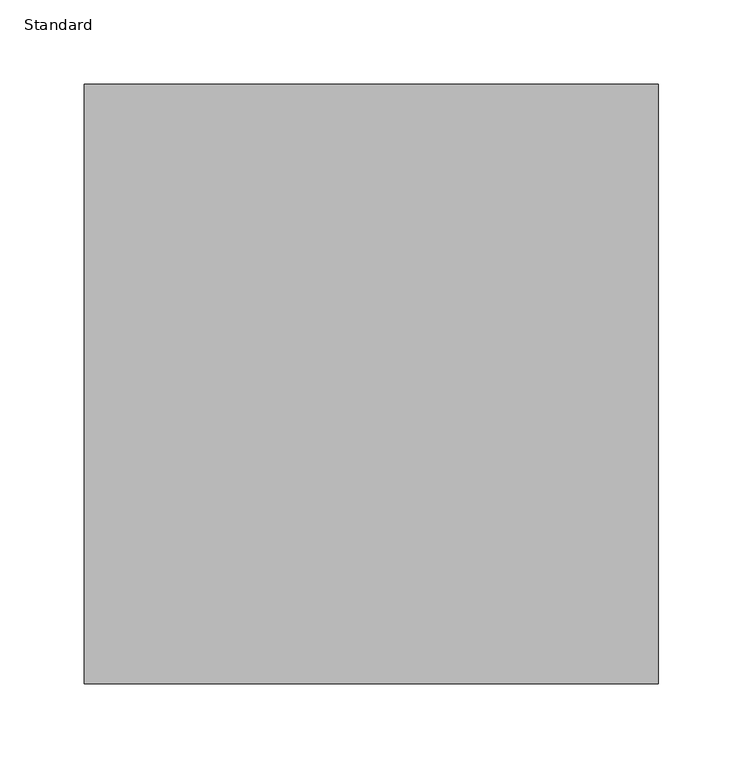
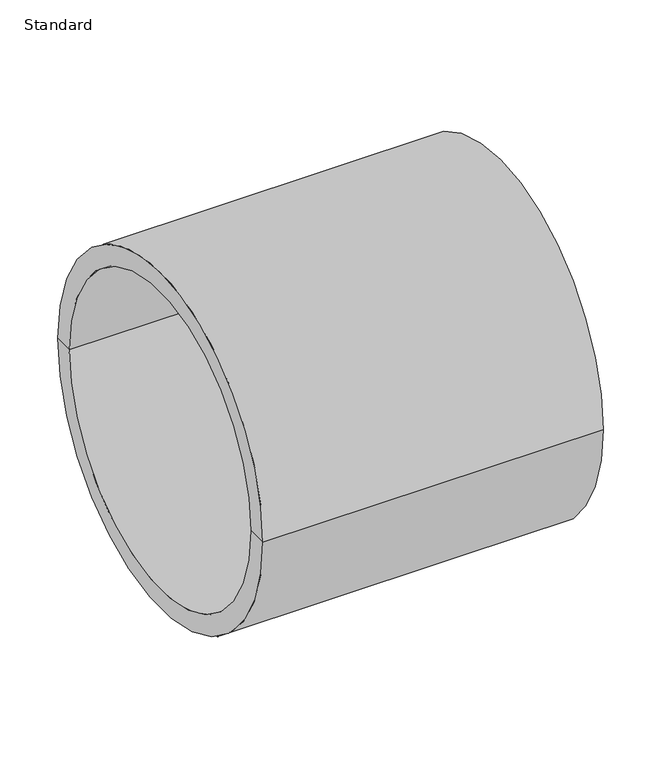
"""IFC4 building model written with IfcOpenShell, lengths in millimetres: pipe fitting geometry, Durapipe_PipeFitting_PVC_Socket : Standard."""

from ifc_helpers import new_model, si_unit, frame, origin, place, context, project, spatial, polyline, circle_curve, source, transform, mapped, element, save
from ifc_brep_helpers import plane_surface, cylinder_surface, revolved_surface, advanced_brep


def standard_6955aa90(model_context):
    return source(origin(), model_context, "Body", "AdvancedBrep", [
        advanced_brep(
        [(-170.0, -177.5, 0.0), (-170.0, 177.5, 0.0), (170.0, 177.5, 0.0), (170.0, -177.5, 0.0), (-170.0, -157.5, 0.0), (-170.0, 157.5, 0.0), (6.0, -145.5, 0.0), (6.0, 145.5, 0.0), (-6.0, 145.5, 0.0), (-6.0, -145.5, 0.0), (170.0, 157.5, 0.0), (170.0, -157.5, 0.0), (-6.0, -157.5, 0.0), (-6.0, 157.5, 0.0), (6.0, -157.5, 0.0), (6.0, 157.5, 0.0)],
        [
            (0, 1, circle_curve(frame((-170.0, 0.0, 0.0), z_axis=(1.0, 0.0, 0.0), x_axis=(0.0, 1.0, 0.0)), 177.5)),
            (1, 2),
            (2, 3, circle_curve(frame((170.0, 0.0, 0.0), z_axis=(-1.0, 0.0, 0.0), x_axis=(0.0, 1.0, 0.0)), 177.5)),
            (3, 0),
            (1, 0, circle_curve(frame((-170.0, 0.0, 0.0), z_axis=(1.0, 0.0, 0.0), x_axis=(0.0, 1.0, 0.0)), 177.5)),
            (3, 2, circle_curve(frame((170.0, 0.0, 0.0), z_axis=(-1.0, 0.0, 0.0), x_axis=(0.0, 1.0, 0.0)), 177.5)),
            (4, 5, circle_curve(frame((-170.0, 0.0, 0.0), z_axis=(1.0, 0.0, 0.0), x_axis=(0.0, 1.0, 0.0)), 157.5)),
            (5, 1),
            (0, 4),
            (5, 4, circle_curve(frame((-170.0, 0.0, 0.0), z_axis=(1.0, 0.0, 0.0), x_axis=(0.0, 1.0, 0.0)), 157.5)),
            (6, 7, circle_curve(frame((6.0, 0.0, 0.0), z_axis=(1.0, 0.0, 0.0), x_axis=(0.0, 1.0, 0.0)), 145.5)),
            (7, 8),
            (8, 9, circle_curve(frame((-6.0, 0.0, 0.0), z_axis=(-1.0, 0.0, 0.0), x_axis=(0.0, 1.0, 0.0)), 145.5)),
            (9, 6),
            (7, 6, circle_curve(frame((6.0, 0.0, 0.0), z_axis=(1.0, 0.0, 0.0), x_axis=(0.0, 1.0, 0.0)), 145.5)),
            (9, 8, circle_curve(frame((-6.0, 0.0, 0.0), z_axis=(-1.0, 0.0, 0.0), x_axis=(0.0, 1.0, 0.0)), 145.5)),
            (2, 10),
            (10, 11, circle_curve(frame((170.0, 0.0, 0.0), z_axis=(-1.0, 0.0, 0.0), x_axis=(0.0, 1.0, 0.0)), 157.5)),
            (11, 3),
            (11, 10, circle_curve(frame((170.0, 0.0, 0.0), z_axis=(-1.0, 0.0, 0.0), x_axis=(0.0, 1.0, 0.0)), 157.5)),
            (12, 13, circle_curve(frame((-6.0, 0.0, 0.0), z_axis=(1.0, 0.0, 0.0), x_axis=(0.0, 1.0, 0.0)), 157.5)),
            (13, 5),
            (4, 12),
            (13, 12, circle_curve(frame((-6.0, 0.0, 0.0), z_axis=(1.0, 0.0, 0.0), x_axis=(0.0, 1.0, 0.0)), 157.5)),
            (8, 13),
            (12, 9),
            (14, 15, circle_curve(frame((6.0, 0.0, 0.0), z_axis=(1.0, 0.0, 0.0), x_axis=(0.0, 1.0, 0.0)), 157.5)),
            (15, 7),
            (6, 14),
            (15, 14, circle_curve(frame((6.0, 0.0, 0.0), z_axis=(1.0, 0.0, 0.0), x_axis=(0.0, 1.0, 0.0)), 157.5)),
            (10, 15),
            (14, 11),
        ],
        [
            cylinder_surface(frame((-170.0, 0.0, 0.0), z_axis=(-1.0, 0.0, 0.0), x_axis=(0.0, 1.0, 0.0)), 177.5),
            plane_surface(frame((-170.0, 0.0, 0.0), z_axis=(-1.0, 0.0, 0.0), x_axis=(0.0, 1.0, 0.0))),
            revolved_surface(polyline([(-6.0, 145.5, 0.0), (6.0, 145.5, 0.0)]), (-170.0, 0.0, 0.0), (-1.0, 0.0, 0.0)),
            plane_surface(frame((170.0, 0.0, 0.0), z_axis=(1.0, 0.0, 0.0), x_axis=(0.0, 1.0, 0.0))),
            revolved_surface(polyline([(-170.0, 157.5, 0.0), (-6.0, 157.5, 0.0)]), (-170.0, 0.0, 0.0), (-1.0, 0.0, 0.0)),
            plane_surface(frame((-6.0, 0.0, 0.0), z_axis=(-1.0, 0.0, 0.0), x_axis=(0.0, 1.0, 0.0))),
            plane_surface(frame((6.0, 0.0, 0.0), z_axis=(1.0, 0.0, 0.0), x_axis=(0.0, 1.0, 0.0))),
            revolved_surface(polyline([(6.0, 157.5, 0.0), (170.0, 157.5, 0.0)]), (-170.0, 0.0, 0.0), (-1.0, 0.0, 0.0)),
        ],
        [
            (0, [[1, 2, 3, 4]]),
            (0, [[5, -4, 6, -2]]),
            (1, [[7, 8, -1, 9]]),
            (1, [[10, -9, -5, -8]]),
            (2, [[11, 12, 13, 14]]),
            (2, [[15, -14, 16, -12]]),
            (3, [[-3, 17, 18, 19]]),
            (3, [[-6, -19, 20, -17]]),
            (4, [[21, 22, -7, 23]]),
            (4, [[24, -23, -10, -22]]),
            (5, [[-13, 25, -21, 26]]),
            (5, [[-16, -26, -24, -25]]),
            (6, [[27, 28, -11, 29]]),
            (6, [[30, -29, -15, -28]]),
            (7, [[-18, 31, -27, 32]]),
            (7, [[-20, -32, -30, -31]]),
        ],
    ),
    ])


if __name__ == "__main__":
    model = new_model("IFC4")
    model_context = context("Model", 3, world=origin())
    ifc_project = project(units=[si_unit("LENGTHUNIT", "METRE", prefix="MILLI")], contexts=[model_context])
    site = spatial("IfcSite", under=ifc_project)
    building = spatial("IfcBuilding", under=site)
    placement = place(None, origin())
    standard_shape = standard_6955aa90(model_context)
    element("IfcPipeFitting", 1, ObjectType="Durapipe_PipeFitting_PVC_Socket : Standard", at=placement, inside=building, context=model_context, shape_type="MappedRepresentation", body=[
        mapped(standard_shape, transform((0.0, 0.0, 0.0), x_axis=(1.0, 0.0, 0.0), y_axis=(0.0, 1.0, 0.0), z_axis=(0.0, 0.0, 1.0))),
    ])
    save(model, "model.ifc")
